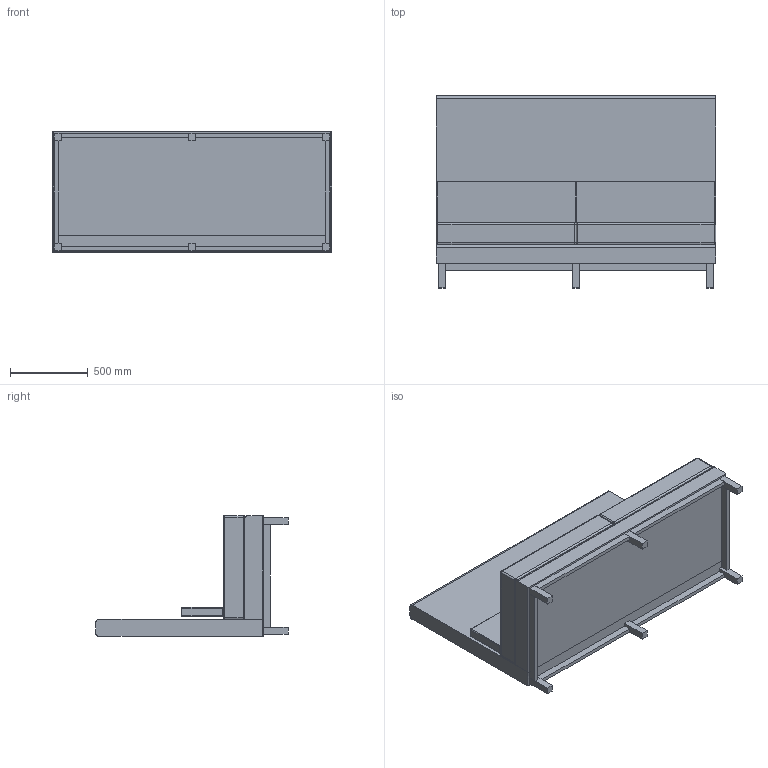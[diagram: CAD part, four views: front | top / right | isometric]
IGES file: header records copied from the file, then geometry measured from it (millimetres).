
Start section: SolidWorks IGES file using analytic representation for surfaces
Global section: file name: P:\3D CAD BLOCKS\ARTHUR CITYSCAPE\HB Plain Compact Armless\IGS\ART-HB-PLAIN-COMP-ART-CITY-ARMLESS.IGS; native system: SolidWorks 2012; preprocessor: SolidWorks 2012; author: tom; date: 160523.091359; units: millimetre
Bounding box: 1800 x 1240 x 780 mm (x, y, z)
Surface area: 12780394.6 mm2 (no closed solid volume)
Topology: 0 solids, 0 shells, 196 faces, 904 edges, 892 vertices
Faces by surface type: bspline 108, revolution 88
